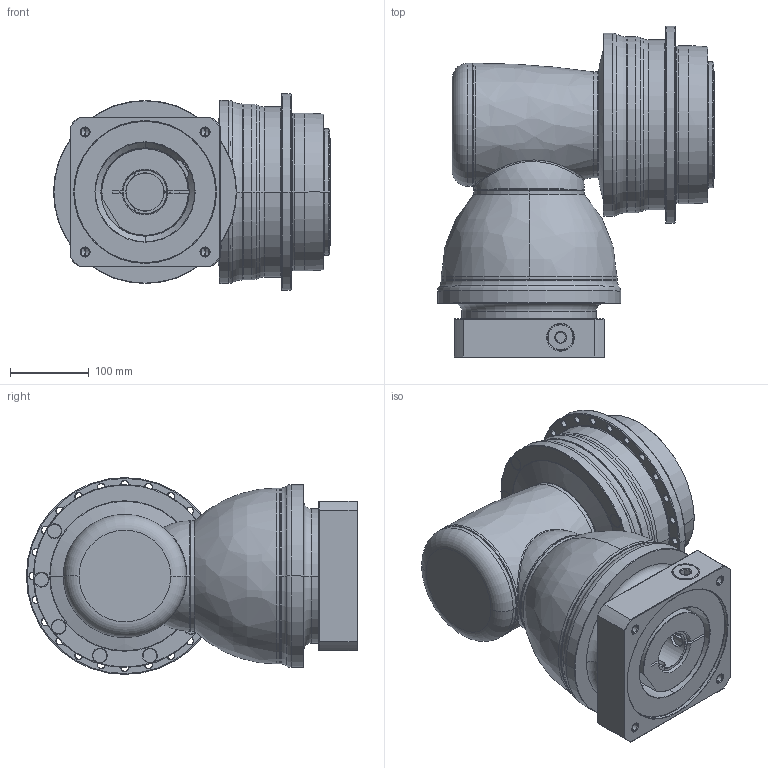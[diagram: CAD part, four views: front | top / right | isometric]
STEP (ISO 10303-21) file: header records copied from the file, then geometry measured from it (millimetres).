
FILE_DESCRIPTION((''),'2;1');
FILE_NAME('APK200_2ST_SBG_48-P0409B10201_ASM','2018-10-30T',('d01226'),(''),'PRO/ENGINEER BY PARAMETRIC TECHNOLOGY CORPORATION, 2015240','PRO/ENGINEER BY PARAMETRIC TECHNOLOGY CORPORATION, 2015240','');
FILE_SCHEMA(('CONFIG_CONTROL_DESIGN'));
Length unit declared in the file: millimetre
Products named in the file (13): P0278601003; P0359601103; P1211600001; P1802610001; P1018600002; P1365600001; P1007601001; P1318610401; P0503B00016; P0912654001; P0409B10201; 21711426021; APK200_2ST_SBG_48-P0409B10201_ASM
Assembly tree (12 placements, depth 2):
  APK200_2ST_SBG_48-P0409B10201_ASM
    P0278601003
    P0359601103
    P1211600001
    P1802610001
    P1018600002
    P1365600001
    P1007601001
    P1318610401
    P0503B00016
    P0912654001
    P0409B10201
    21711426021
Bounding box: 351 x 419.75 x 249.5 mm (x, y, z)
Volume: 15613066.7 mm3; surface area: 1131995.3 mm2
Topology: 13 solids, 38 shells, 866 faces, 2027 edges, 1231 vertices
Faces by surface type: cylinder 359, cone 236, plane 153, torus 90, bspline 26, sphere 2
Entity records: 31161 total; most frequent: CARTESIAN_POINT 10586, DIRECTION 4755, ORIENTED_EDGE 3864, AXIS2_PLACEMENT_3D 2047, EDGE_CURVE 1983, VERTEX_POINT 1231, CIRCLE 1172, EDGE_LOOP 1018
